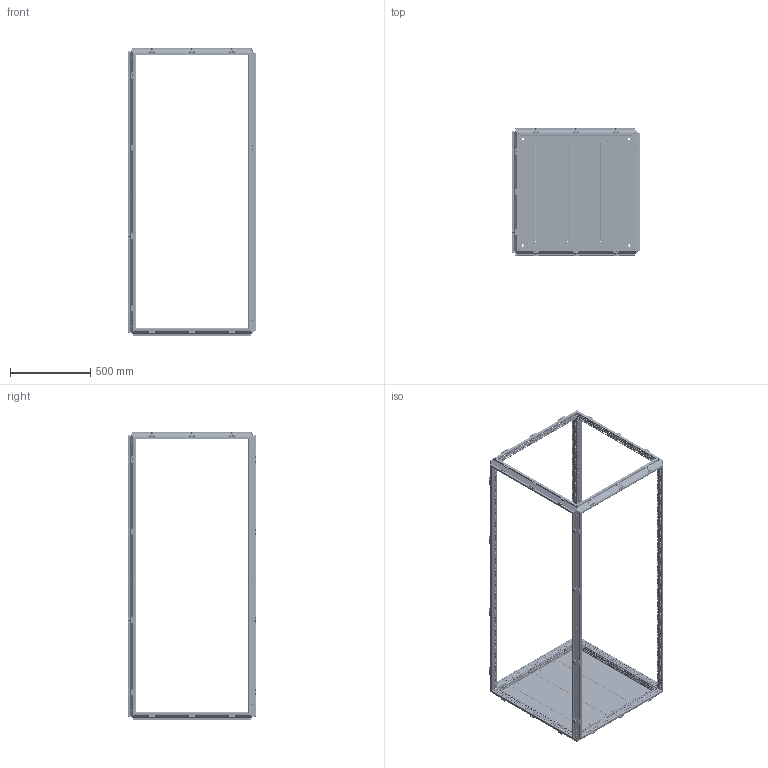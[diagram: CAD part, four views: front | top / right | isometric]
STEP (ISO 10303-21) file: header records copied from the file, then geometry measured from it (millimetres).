
FILE_DESCRIPTION(('STEP AP203'), '1');
FILE_NAME('3000 忺謤僔 捘', '', ('UNSPECIFIED'), ('UNSPECIFIED'), 'C3D Converter', 'C3D Toolkit', '');
FILE_SCHEMA(('CONFIG_CONTROL_DESIGN'));
Length unit declared in the file: millimetre
Products named in the file (13): 3000.180.80.80 СБ; 3000; 3007.175; 3007.75; 3007.200; 3009.04; 3009.04.01; 3009.04.2; 3009.04.01.2
Assembly tree (161 placements, depth 3):
  3000.180.80.80 СБ
    3000
    (unnamed)  x104
    3007.175
    (unnamed)  x14
    3007.75
    3007.200  x2
    3009.04  x12
      3009.04.01
      (unnamed)
      (unnamed)
    3009.04.2  x17
      3009.04.01.2
      (unnamed)
      (unnamed)
Bounding box: 797 x 797 x 1798.5 mm (x, y, z)
Volume: 4303055.6 mm3; surface area: 5702331.7 mm2
Topology: 272 solids, 272 shells, 18785 faces, 52379 edges, 34564 vertices
Faces by surface type: plane 13031, cylinder 4666, cone 744, torus 260, bspline 84
Full cylindrical faces by diameter (mm): 4.134 x150, 4.5 x1988, 4.8 x14, 5 x162, 5.8 x46, 6.8 x208, 7 x104, 7.5 x58, 8 x104, 9.2 x58, 10.106 x8, 14 x4
Entity records: 399585 total; most frequent: CARTESIAN_POINT 72642, ORIENTED_EDGE 64262, DIRECTION 60907, EDGE_CURVE 32131, LINE 26411, VECTOR 26411, VERTEX_POINT 22658, EDGE_LOOP 21975
